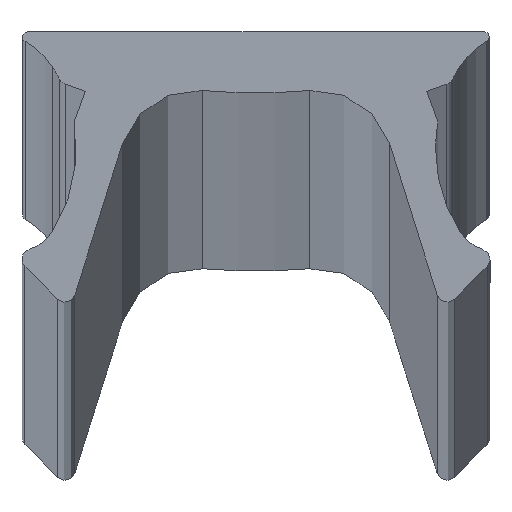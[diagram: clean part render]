
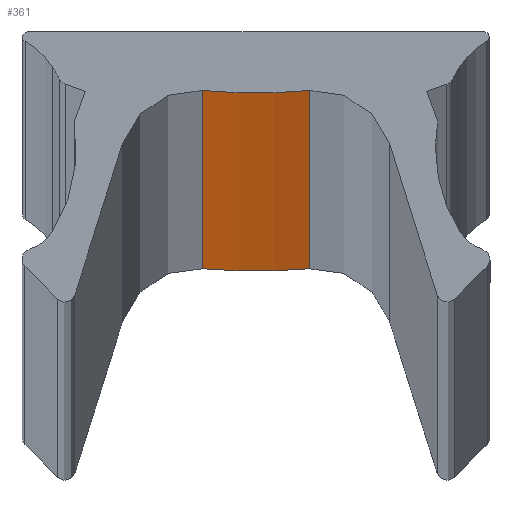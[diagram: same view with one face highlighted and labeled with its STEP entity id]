
A CAD part, top view. The second image highlights one B-rep face of the part: STEP entity #361.
In plain terms, the highlighted cylindrical face has radius 12 mm (diameter 24 mm), a partial arc.
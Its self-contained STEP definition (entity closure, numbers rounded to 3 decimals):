
#60 = CARTESIAN_POINT ( 'NONE',  ( -1.055, -1.154, -20. ) ) ;
#82 = DIRECTION ( 'NONE',  ( -1., 0., 0. ) ) ;
#90 = CARTESIAN_POINT ( 'NONE',  ( 1.055, -1.154, 0. ) ) ;
#104 = VERTEX_POINT ( 'NONE', #332 ) ;
#115 = EDGE_LOOP ( 'NONE', ( #557, #1050, #845, #587 ) ) ;
#206 = DIRECTION ( 'NONE',  ( -1., 0., 0. ) ) ;
#239 = CARTESIAN_POINT ( 'NONE',  ( 1.055, -1.154, -2000. ) ) ;
#273 = AXIS2_PLACEMENT_3D ( 'NONE', #1180, #1076, #82 ) ;
#304 = CARTESIAN_POINT ( 'NONE',  ( -1.055, -1.154, -2000. ) ) ;
#330 = LINE ( 'NONE', #720, #515 ) ;
#331 = EDGE_CURVE ( 'NONE', #104, #376, #933, .T. ) ;
#332 = CARTESIAN_POINT ( 'NONE',  ( -1.055, -1.154, 0. ) ) ;
#361 = ADVANCED_FACE ( 'NONE', ( #447 ), #644, .T. ) ;
#374 = DIRECTION ( 'NONE',  ( 0., 0., -1. ) ) ;
#376 = VERTEX_POINT ( 'NONE', #304 ) ;
#442 = VECTOR ( 'NONE', #374, 1000. ) ;
#447 = FACE_OUTER_BOUND ( 'NONE', #115, .T. ) ;
#515 = VECTOR ( 'NONE', #627, 1000. ) ;
#557 = ORIENTED_EDGE ( 'NONE', *, *, #331, .T. ) ;
#587 = ORIENTED_EDGE ( 'NONE', *, *, #903, .F. ) ;
#619 = AXIS2_PLACEMENT_3D ( 'NONE', #810, #1108, #206 ) ;
#623 = EDGE_CURVE ( 'NONE', #719, #376, #1061, .T. ) ;
#627 = DIRECTION ( 'NONE',  ( 0., 0., 1. ) ) ;
#644 = CYLINDRICAL_SURFACE ( 'NONE', #827, 12. ) ;
#654 = VERTEX_POINT ( 'NONE', #90 ) ;
#719 = VERTEX_POINT ( 'NONE', #239 ) ;
#720 = CARTESIAN_POINT ( 'NONE',  ( 1.055, -1.154, -20. ) ) ;
#810 = CARTESIAN_POINT ( 'NONE',  ( 0., 10.8, 0. ) ) ;
#827 = AXIS2_PLACEMENT_3D ( 'NONE', #1039, #943, #843 ) ;
#843 = DIRECTION ( 'NONE',  ( -1., 0., 0. ) ) ;
#845 = ORIENTED_EDGE ( 'NONE', *, *, #1218, .T. ) ;
#903 = EDGE_CURVE ( 'NONE', #104, #654, #979, .T. ) ;
#933 = LINE ( 'NONE', #60, #442 ) ;
#943 = DIRECTION ( 'NONE',  ( 0., 0., -1. ) ) ;
#979 = CIRCLE ( 'NONE', #619, 12. ) ;
#1039 = CARTESIAN_POINT ( 'NONE',  ( 0., 10.8, -20. ) ) ;
#1050 = ORIENTED_EDGE ( 'NONE', *, *, #623, .F. ) ;
#1061 = CIRCLE ( 'NONE', #273, 12. ) ;
#1076 = DIRECTION ( 'NONE',  ( 0., 0., -1. ) ) ;
#1108 = DIRECTION ( 'NONE',  ( 0., 0., 1. ) ) ;
#1180 = CARTESIAN_POINT ( 'NONE',  ( 0., 10.8, -2000. ) ) ;
#1218 = EDGE_CURVE ( 'NONE', #719, #654, #330, .T. ) ;
